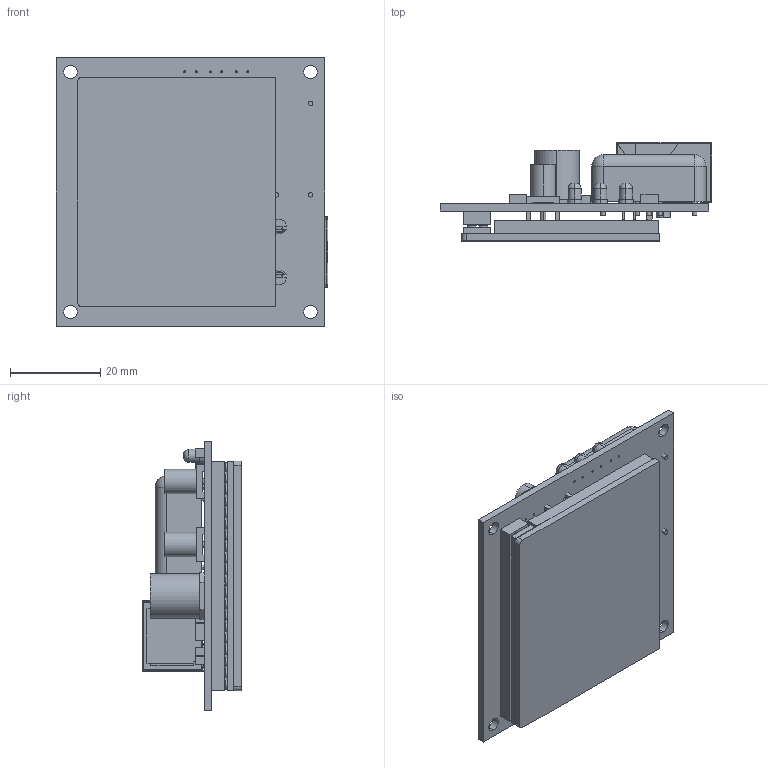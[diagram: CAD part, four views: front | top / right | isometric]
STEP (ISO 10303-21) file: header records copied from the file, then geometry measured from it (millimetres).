
FILE_DESCRIPTION (( 'STEP AP214' ), '1' );
FILE_NAME ('CUA32-SLV-POM.STEP', '2017-11-28T09:56:24', ( '' ), ( '' ), 'SwSTEP 2.0', 'SolidWorks 2011', '' );
FILE_SCHEMA (( 'AUTOMOTIVE_DESIGN' ));
Length unit declared in the file: millimetre
Products named in the file (9): 615008142621-rev1; PCB_Slave_Comp; PCB_Slave; Coax_Simple; Led_1142488; JTK30; POM32_comp; POM32; CUA32-SLV-POM
Assembly tree (11 placements, depth 2):
  CUA32-SLV-POM
    JTK30
    POM32_comp
    PCB_Slave_Comp
    615008142621-rev1
    Led_1142488  x3
    Coax_Simple  x2
    POM32
    PCB_Slave
Bounding box: 60.33 x 21.8 x 59.69 mm (x, y, z)
Volume: 24311.6 mm3; surface area: 27494 mm2
Topology: 18 solids, 38 shells, 1030 faces, 2748 edges, 1849 vertices
Faces by surface type: cylinder 554, plane 444, bspline 19, torus 6, sphere 4, cone 3
Entity records: 40564 total; most frequent: CARTESIAN_POINT 10170, DIRECTION 5572, ORIENTED_EDGE 4803, EDGE_CURVE 2604, AXIS2_PLACEMENT_3D 2063, VERTEX_POINT 1757, LINE 1446, VECTOR 1446
